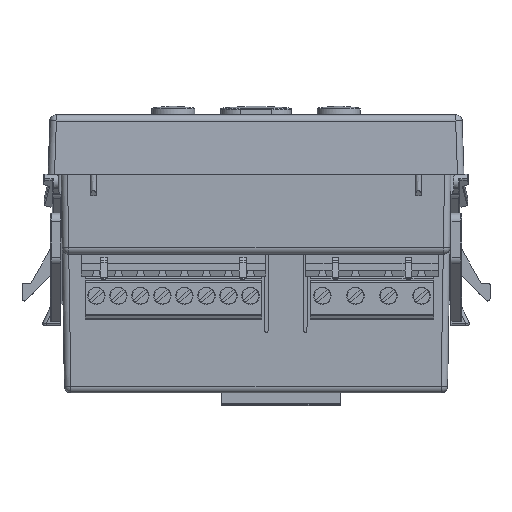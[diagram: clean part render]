
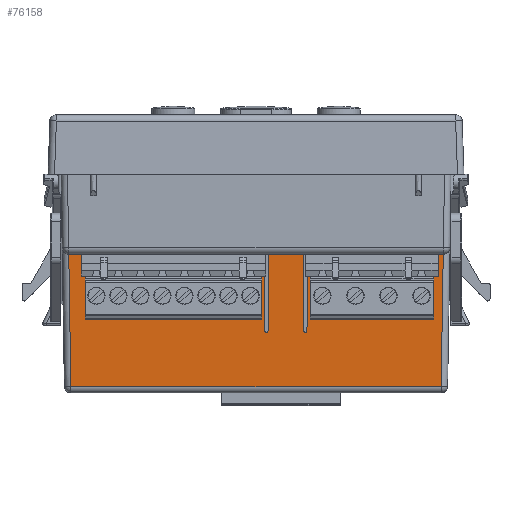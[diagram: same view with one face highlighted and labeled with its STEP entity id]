
A CAD part, front view. The second image highlights one B-rep face of the part: STEP entity #76158.
In plain terms, the highlighted planar face has unit normal (0, -0.999, -0.035).
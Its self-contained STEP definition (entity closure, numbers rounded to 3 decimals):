
#14264=DIRECTION('',(0.003,-0.035,0.999));
#14265=VECTOR('',#14264,19.217);
#14266=CARTESIAN_POINT('',(11.766,-32.93,
-36.205));
#14267=LINE('',#14266,#14265);
#14272=DIRECTION('',(1.,0.,0.));
#14273=VECTOR('',#14272,0.09);
#14274=CARTESIAN_POINT('',(2.355,-32.92,-36.5));
#14275=LINE('',#14274,#14273);
#14288=DIRECTION('',(0.016,0.035,-0.999));
#14289=VECTOR('',#14288,30.575);
#14290=CARTESIAN_POINT('',(-43.208,-33.549,-18.5));
#14291=LINE('',#14290,#14289);
#14292=DIRECTION('',(-1.,0.,0.));
#14293=VECTOR('',#14292,2.338);
#14294=CARTESIAN_POINT('',(-40.87,-33.549,-18.5));
#14295=LINE('',#14294,#14293);
#14296=DIRECTION('',(-1.,0.,0.));
#14297=VECTOR('',#14296,42.832);
#14298=CARTESIAN_POINT('',(1.962,-33.601,-17.));
#14299=LINE('',#14298,#14297);
#14300=DIRECTION('',(-1.,0.,0.));
#14301=VECTOR('',#14300,8.129);
#14302=CARTESIAN_POINT('',(10.962,-33.549,-18.5));
#14303=LINE('',#14302,#14301);
#14304=DIRECTION('',(-1.,0.,0.));
#14305=VECTOR('',#14304,30.672);
#14306=CARTESIAN_POINT('',(42.505,-33.601,-17.));
#14307=LINE('',#14306,#14305);
#14308=DIRECTION('',(-1.,0.,0.));
#14309=VECTOR('',#14308,0.703);
#14310=CARTESIAN_POINT('',(43.208,-33.549,-18.5));
#14311=LINE('',#14310,#14309);
#14312=DIRECTION('',(0.016,-0.035,0.999));
#14313=VECTOR('',#14312,30.575);
#14314=CARTESIAN_POINT('',(42.724,-32.482,
-49.052));
#14315=LINE('',#14314,#14313);
#14320=DIRECTION('',(-1.,0.,0.));
#14321=VECTOR('',#14320,85.447);
#14322=CARTESIAN_POINT('',(42.724,-32.482,
-49.052));
#14323=LINE('',#14322,#14321);
#15294=CARTESIAN_POINT('',(43.208,-33.549,-18.5));
#15327=DIRECTION('',(0.,0.035,-0.999));
#15328=VECTOR('',#15327,1.501);
#15329=CARTESIAN_POINT('',(42.505,-33.601,-17.));
#15330=LINE('',#15329,#15328);
#15624=DIRECTION('',(0.003,0.035,-0.999));
#15625=VECTOR('',#15624,17.716);
#15626=CARTESIAN_POINT('',(10.962,-33.549,-18.5));
#15627=LINE('',#15626,#15625);
#15664=DIRECTION('',(0.003,-0.035,0.999));
#15665=VECTOR('',#15664,17.716);
#15666=CARTESIAN_POINT('',(2.771,-32.93,
-36.205));
#15667=LINE('',#15666,#15665);
#15668=CARTESIAN_POINT('',(2.445,-32.92,-36.5));
#15669=CARTESIAN_POINT('',(2.497,-32.92,-36.5));
#15670=CARTESIAN_POINT('',(2.58,-32.921,
-36.48));
#15671=CARTESIAN_POINT('',(2.677,-32.923,
-36.422));
#15672=CARTESIAN_POINT('',(2.746,-32.926,
-36.335));
#15673=CARTESIAN_POINT('',(2.771,-32.928,
-36.257));
#15674=CARTESIAN_POINT('',(2.771,-32.93,
-36.205));
#15688=CARTESIAN_POINT('',(11.024,-32.93,
-36.205));
#15689=CARTESIAN_POINT('',(11.024,-32.928,
-36.257));
#15690=CARTESIAN_POINT('',(11.049,-32.926,
-36.335));
#15691=CARTESIAN_POINT('',(11.118,-32.923,
-36.422));
#15692=CARTESIAN_POINT('',(11.215,-32.921,
-36.48));
#15693=CARTESIAN_POINT('',(11.298,-32.92,-36.5));
#15694=CARTESIAN_POINT('',(11.35,-32.92,-36.5));
#15708=DIRECTION('',(1.,0.,0.));
#15709=VECTOR('',#15708,0.09);
#15710=CARTESIAN_POINT('',(11.35,-32.92,-36.5));
#15711=LINE('',#15710,#15709);
#15724=CARTESIAN_POINT('',(11.44,-32.92,-36.5));
#15725=CARTESIAN_POINT('',(11.492,-32.92,-36.5));
#15726=CARTESIAN_POINT('',(11.575,-32.921,
-36.48));
#15727=CARTESIAN_POINT('',(11.672,-32.923,
-36.422));
#15728=CARTESIAN_POINT('',(11.741,-32.926,
-36.335));
#15729=CARTESIAN_POINT('',(11.766,-32.928,
-36.257));
#15730=CARTESIAN_POINT('',(11.766,-32.93,
-36.205));
#15788=DIRECTION('',(0.,-0.035,0.999));
#15789=VECTOR('',#15788,1.501);
#15790=CARTESIAN_POINT('',(-40.87,-33.549,-18.5));
#15791=LINE('',#15790,#15789);
#15816=DIRECTION('',(0.003,0.035,-0.999));
#15817=VECTOR('',#15816,19.217);
#15818=CARTESIAN_POINT('',(1.962,-33.601,-17.));
#15819=LINE('',#15818,#15817);
#37829=CARTESIAN_POINT('',(2.029,-32.93,
-36.205));
#37830=CARTESIAN_POINT('',(2.029,-32.928,
-36.257));
#37831=CARTESIAN_POINT('',(2.054,-32.926,
-36.335));
#37832=CARTESIAN_POINT('',(2.123,-32.923,
-36.422));
#37833=CARTESIAN_POINT('',(2.22,-32.921,
-36.48));
#37834=CARTESIAN_POINT('',(2.303,-32.92,-36.5));
#37835=CARTESIAN_POINT('',(2.355,-32.92,-36.5));
#37865=CARTESIAN_POINT('',(-43.208,-33.549,-18.5));
#52518=VERTEX_POINT('',#15294);
#52527=CARTESIAN_POINT('',(42.505,-33.549,-18.5));
#52528=VERTEX_POINT('',#52527);
#52541=CARTESIAN_POINT('',(2.833,-33.549,-18.5));
#52542=VERTEX_POINT('',#52541);
#52543=CARTESIAN_POINT('',(10.962,-33.549,-18.5));
#52544=VERTEX_POINT('',#52543);
#52854=CARTESIAN_POINT('',(1.962,-33.601,-17.));
#52856=VERTEX_POINT('',#52854);
#52872=CARTESIAN_POINT('',(-40.87,-33.601,-17.));
#52873=VERTEX_POINT('',#52872);
#52894=CARTESIAN_POINT('',(2.029,-32.93,
-36.205));
#52895=VERTEX_POINT('',#52894);
#52944=CARTESIAN_POINT('',(11.024,-32.93,
-36.205));
#52945=VERTEX_POINT('',#52944);
#52950=CARTESIAN_POINT('',(2.771,-32.93,
-36.205));
#52951=VERTEX_POINT('',#52950);
#52952=CARTESIAN_POINT('',(2.355,-32.92,-36.5));
#52953=CARTESIAN_POINT('',(2.445,-32.92,-36.5));
#52954=VERTEX_POINT('',#52952);
#52955=VERTEX_POINT('',#52953);
#52960=CARTESIAN_POINT('',(11.35,-32.92,-36.5));
#52961=CARTESIAN_POINT('',(11.44,-32.92,-36.5));
#52962=VERTEX_POINT('',#52960);
#52963=VERTEX_POINT('',#52961);
#53038=VERTEX_POINT('',#37865);
#53039=CARTESIAN_POINT('',(-40.87,-33.549,-18.5));
#53040=VERTEX_POINT('',#53039);
#53184=CARTESIAN_POINT('',(11.833,-33.601,-17.));
#53185=VERTEX_POINT('',#53184);
#53186=CARTESIAN_POINT('',(42.505,-33.601,-17.));
#53187=VERTEX_POINT('',#53186);
#53694=CARTESIAN_POINT('',(42.724,-32.482,
-49.052));
#53695=CARTESIAN_POINT('',(-42.724,-32.482,
-49.052));
#53696=VERTEX_POINT('',#53694);
#53697=VERTEX_POINT('',#53695);
#53698=CARTESIAN_POINT('',(11.766,-32.93,
-36.205));
#53699=VERTEX_POINT('',#53698);
#76114=CARTESIAN_POINT('',(45.,-36.765,73.612));
#76115=DIRECTION('',(0.,0.999,0.035));
#76116=DIRECTION('',(1.,0.,0.));
#76117=AXIS2_PLACEMENT_3D('',#76114,#76115,#76116);
#76118=PLANE('',#76117);
#76120=ORIENTED_EDGE('',*,*,#76119,.T.);
#76122=ORIENTED_EDGE('',*,*,#76121,.F.);
#76124=ORIENTED_EDGE('',*,*,#76123,.F.);
#76126=ORIENTED_EDGE('',*,*,#76125,.T.);
#76128=ORIENTED_EDGE('',*,*,#76127,.F.);
#76130=ORIENTED_EDGE('',*,*,#76129,.T.);
#76132=ORIENTED_EDGE('',*,*,#76131,.T.);
#76133=ORIENTED_EDGE('',*,*,#76104,.T.);
#76135=ORIENTED_EDGE('',*,*,#76134,.T.);
#76137=ORIENTED_EDGE('',*,*,#76136,.T.);
#76139=ORIENTED_EDGE('',*,*,#76138,.F.);
#76141=ORIENTED_EDGE('',*,*,#76140,.T.);
#76143=ORIENTED_EDGE('',*,*,#76142,.T.);
#76145=ORIENTED_EDGE('',*,*,#76144,.T.);
#76147=ORIENTED_EDGE('',*,*,#76146,.T.);
#76148=ORIENTED_EDGE('',*,*,#76061,.T.);
#76149=ORIENTED_EDGE('',*,*,#76044,.F.);
#76151=ORIENTED_EDGE('',*,*,#76150,.T.);
#76153=ORIENTED_EDGE('',*,*,#76152,.F.);
#76155=ORIENTED_EDGE('',*,*,#76154,.F.);
#76156=EDGE_LOOP('',(#76120,#76122,#76124,#76126,#76128,#76130,#76132,#76133,
#76135,#76137,#76139,#76141,#76143,#76145,#76147,#76148,#76149,#76151,#76153,
#76155));
#76157=FACE_OUTER_BOUND('',#76156,.F.);
#15675=B_SPLINE_CURVE_WITH_KNOTS('',3,(#15668,#15669,#15670,#15671,#15672,
#15673,#15674),.UNSPECIFIED.,.F.,.F.,(4,1,1,1,4),(0.,0.25,0.5,0.75,
1.),.UNSPECIFIED.);
#15695=B_SPLINE_CURVE_WITH_KNOTS('',3,(#15688,#15689,#15690,#15691,#15692,
#15693,#15694),.UNSPECIFIED.,.F.,.F.,(4,1,1,1,4),(0.,0.25,0.5,0.75,
1.),.UNSPECIFIED.);
#15731=B_SPLINE_CURVE_WITH_KNOTS('',3,(#15724,#15725,#15726,#15727,#15728,
#15729,#15730),.UNSPECIFIED.,.F.,.F.,(4,1,1,1,4),(0.,0.25,0.5,0.75,
1.),.UNSPECIFIED.);
#37836=B_SPLINE_CURVE_WITH_KNOTS('',3,(#37829,#37830,#37831,#37832,#37833,
#37834,#37835),.UNSPECIFIED.,.F.,.F.,(4,1,1,1,4),(0.,0.25,0.5,0.75,
1.),.UNSPECIFIED.);
#76044=EDGE_CURVE('',#53187,#53185,#14307,.T.);
#76061=EDGE_CURVE('',#53699,#53185,#14267,.T.);
#76104=EDGE_CURVE('',#52954,#52955,#14275,.T.);
#76119=EDGE_CURVE('',#53696,#53697,#14323,.T.);
#76121=EDGE_CURVE('',#53038,#53697,#14291,.T.);
#76123=EDGE_CURVE('',#53040,#53038,#14295,.T.);
#76125=EDGE_CURVE('',#53040,#52873,#15791,.T.);
#76127=EDGE_CURVE('',#52856,#52873,#14299,.T.);
#76129=EDGE_CURVE('',#52856,#52895,#15819,.T.);
#76131=EDGE_CURVE('',#52895,#52954,#37836,.T.);
#76134=EDGE_CURVE('',#52955,#52951,#15675,.T.);
#76136=EDGE_CURVE('',#52951,#52542,#15667,.T.);
#76138=EDGE_CURVE('',#52544,#52542,#14303,.T.);
#76140=EDGE_CURVE('',#52544,#52945,#15627,.T.);
#76142=EDGE_CURVE('',#52945,#52962,#15695,.T.);
#76144=EDGE_CURVE('',#52962,#52963,#15711,.T.);
#76146=EDGE_CURVE('',#52963,#53699,#15731,.T.);
#76150=EDGE_CURVE('',#53187,#52528,#15330,.T.);
#76152=EDGE_CURVE('',#52518,#52528,#14311,.T.);
#76154=EDGE_CURVE('',#53696,#52518,#14315,.T.);
#76158=ADVANCED_FACE('',(#76157),#76118,.F.);
